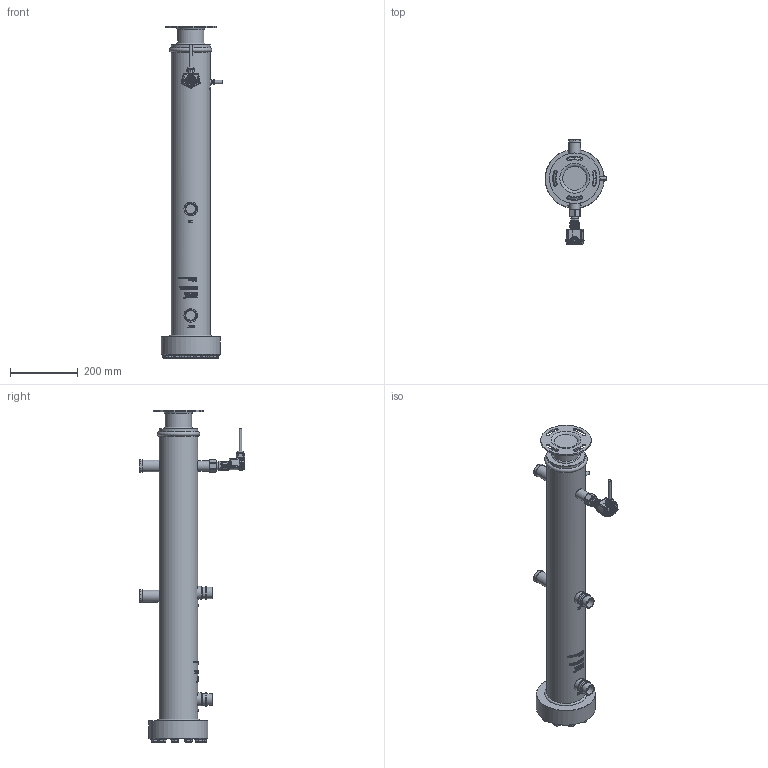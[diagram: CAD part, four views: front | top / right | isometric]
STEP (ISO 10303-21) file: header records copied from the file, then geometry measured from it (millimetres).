
FILE_DESCRIPTION(/* description */ (''),/* implementation_level */ '2;1');
FILE_NAME(/* name */ 'P:\OSR\BOS3-R-CDH-1AF\BOS3-R-CDH-1AF.stp',/* time_stamp */ '2019-08-21T11:22:27+02:00',/* author */ ('neufeld'),/* organization */ (''),/* preprocessor_version */ 'ST-DEVELOPER v17',/* originating_system */ 'Autodesk Inventor 2019',/* authorisation */ '');
FILE_SCHEMA (('AUTOMOTIVE_DESIGN { 1 0 10303 214 3 1 1 }'));
Products named in the file (1): BOS3-R-CDH-1AF_AG-Kunde
Bounding box: 182.65 x 312.03 x 981.5 mm (x, y, z)
Volume: 10766022.5 mm3; surface area: 511498.2 mm2
Topology: 2 solids, 2 shells, 3641 faces, 9557 edges, 6005 vertices
Faces by surface type: bspline 1355, plane 1002, cylinder 719, torus 257, cone 243, sphere 65
Full cylindrical faces by diameter (mm): 1 x1, 3.25 x1, 5 x1, 6.2 x1, 7.65 x1, 9 x1, 10 x2, 12 x1, 12.25 x1, 14 x1, 15 x1, 17 x1, 17.2 x11, 18 x1, 19.4 x4, 20 x3, 21.25 x1, 21.34 x1, 22.5 x1, 23 x3, 24 x18, 28.9 x2, 30 x1, 33.7 x4, 35 x2, 38 x2, 40 x2, 78 x1, 114.3 x2, 150 x1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
Entity records: 164334 total; most frequent: CARTESIAN_POINT 80939, ORIENTED_EDGE 18940, DIRECTION 14105, EDGE_CURVE 9470, VERTEX_POINT 6004, AXIS2_PLACEMENT_3D 5317, EDGE_LOOP 3876, FACE_OUTER_BOUND 3640
